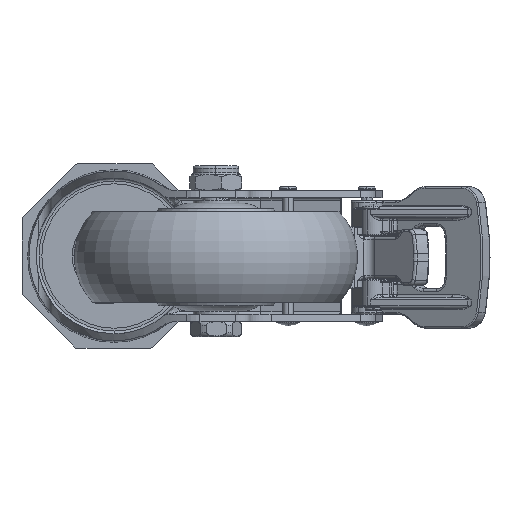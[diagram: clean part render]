
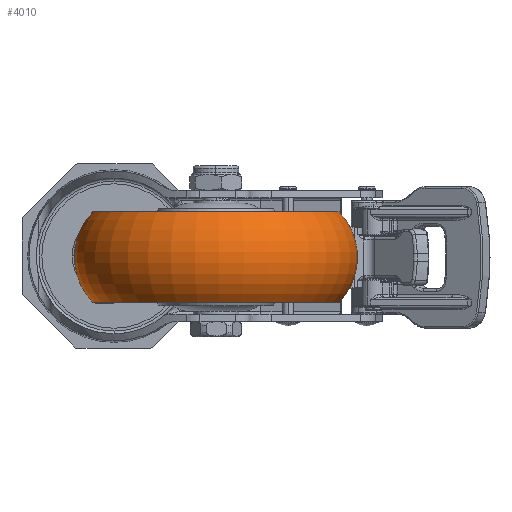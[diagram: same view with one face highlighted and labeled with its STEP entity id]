
A CAD part, front view. The second image highlights one B-rep face of the part: STEP entity #4010.
In plain terms, the highlighted toroidal (fillet/blend) face has major radius 27.058 mm and minor radius 22.942 mm.
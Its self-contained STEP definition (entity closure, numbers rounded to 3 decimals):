
#3938 = EDGE_CURVE ( 'NONE', #3939, #4018, #48136, .T. ) ;
#3939 = VERTEX_POINT ( 'NONE', #48132 ) ;
#3940 = ORIENTED_EDGE ( 'NONE', *, *, #3941, .F. ) ;
#3941 = EDGE_CURVE ( 'NONE', #4014, #3939, #48131, .T. ) ;
#4010 = ADVANCED_FACE ( 'NONE', ( #48304 ), #48299, .T. ) ;
#4011 = EDGE_LOOP ( 'NONE', ( #4012, #4016, #4019, #3940 ) ) ;
#4012 = ORIENTED_EDGE ( 'NONE', *, *, #4013, .T. ) ;
#4013 = EDGE_CURVE ( 'NONE', #4014, #4015, #48298, .T. ) ;
#4014 = VERTEX_POINT ( 'NONE', #48289 ) ;
#4015 = VERTEX_POINT ( 'NONE', #48288 ) ;
#4016 = ORIENTED_EDGE ( 'NONE', *, *, #4017, .T. ) ;
#4017 = EDGE_CURVE ( 'NONE', #4015, #4018, #48287, .T. ) ;
#4018 = VERTEX_POINT ( 'NONE', #48282 ) ;
#4019 = ORIENTED_EDGE ( 'NONE', *, *, #3938, .F. ) ;
#48127 = DIRECTION ( 'NONE',  ( -1., 0., 0. ) ) ;
#48128 = DIRECTION ( 'NONE',  ( 0., 0., -1. ) ) ;
#48129 = CARTESIAN_POINT ( 'NONE',  ( 27.058, 0., 0. ) ) ;
#48130 = AXIS2_PLACEMENT_3D ( 'NONE', #48129, #48128, #48127 ) ;
#48131 = CIRCLE ( 'NONE', #48130, 22.942 ) ;
#48132 = CARTESIAN_POINT ( 'NONE',  ( 43.5, -16., 0. ) ) ;
#48133 = DIRECTION ( 'NONE',  ( 1., 0., 0. ) ) ;
#48134 = DIRECTION ( 'NONE',  ( 0., -1., 0. ) ) ;
#48135 = AXIS2_PLACEMENT_3D ( 'NONE', #48145, #48134, #48133 ) ;
#48136 = CIRCLE ( 'NONE', #48135, 43.5 ) ;
#48145 = CARTESIAN_POINT ( 'NONE',  ( 0., -16., 0. ) ) ;
#48282 = CARTESIAN_POINT ( 'NONE',  ( -43.5, -16., 0. ) ) ;
#48283 = DIRECTION ( 'NONE',  ( 1., 0., 0. ) ) ;
#48284 = DIRECTION ( 'NONE',  ( 0., 0., 1. ) ) ;
#48285 = CARTESIAN_POINT ( 'NONE',  ( -27.058, 0., 0. ) ) ;
#48286 = AXIS2_PLACEMENT_3D ( 'NONE', #48285, #48284, #48283 ) ;
#48287 = CIRCLE ( 'NONE', #48286, 22.942 ) ;
#48288 = CARTESIAN_POINT ( 'NONE',  ( -43.5, 16., 0. ) ) ;
#48289 = CARTESIAN_POINT ( 'NONE',  ( 43.5, 16., 0. ) ) ;
#48290 = DIRECTION ( 'NONE',  ( 1., 0., 0. ) ) ;
#48291 = DIRECTION ( 'NONE',  ( 0., -1., 0. ) ) ;
#48292 = CARTESIAN_POINT ( 'NONE',  ( 0., 16., 0. ) ) ;
#48293 = AXIS2_PLACEMENT_3D ( 'NONE', #48292, #48291, #48290 ) ;
#48294 = DIRECTION ( 'NONE',  ( 1., 0., 0. ) ) ;
#48295 = DIRECTION ( 'NONE',  ( 0., -1., 0. ) ) ;
#48296 = CARTESIAN_POINT ( 'NONE',  ( 0., 0., 0. ) ) ;
#48297 = AXIS2_PLACEMENT_3D ( 'NONE', #48296, #48295, #48294 ) ;
#48298 = CIRCLE ( 'NONE', #48293, 43.5 ) ;
#48299 = TOROIDAL_SURFACE ( 'NONE', #48297, 27.058, 22.942 ) ;
#48304 = FACE_OUTER_BOUND ( 'NONE', #4011, .T. ) ;
